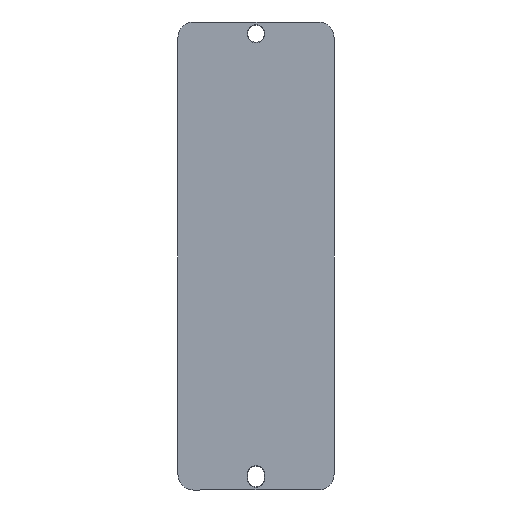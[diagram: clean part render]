
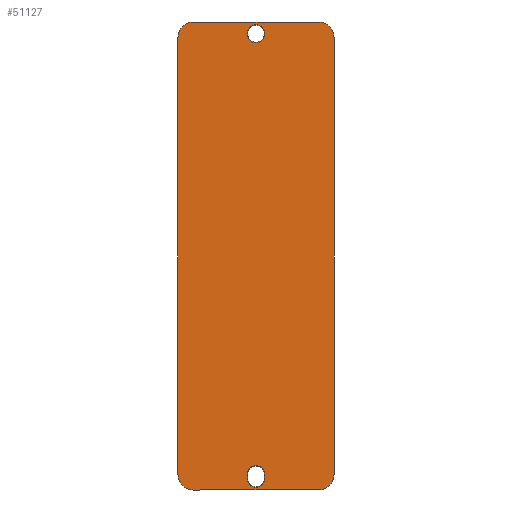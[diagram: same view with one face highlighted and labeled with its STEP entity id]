
A CAD part, top view. The second image highlights one B-rep face of the part: STEP entity #51127.
In plain terms, the highlighted planar face has unit normal (0, 0, 1).
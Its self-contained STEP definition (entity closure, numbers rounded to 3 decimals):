
#101 = CARTESIAN_POINT ( 'NONE',  ( 4.805, -149.629, 18. ) ) ;
#322 = CARTESIAN_POINT ( 'NONE',  ( 4.805, 30.371, 18. ) ) ;
#345 =( BOUNDED_CURVE ( )  B_SPLINE_CURVE ( 3, ( #32397, #38148, #35648, #26539 ),
 .UNSPECIFIED., .F., .F. ) 
 B_SPLINE_CURVE_WITH_KNOTS ( ( 4, 4 ),
 ( 2.356, 3.927 ),
 .UNSPECIFIED. ) 
 CURVE ( )  GEOMETRIC_REPRESENTATION_ITEM ( )  RATIONAL_B_SPLINE_CURVE ( ( 1., 0.805, 0.805, 1. ) ) 
 REPRESENTATION_ITEM ( '' )  );
#839 = CARTESIAN_POINT ( 'NONE',  ( -43.197, -149.629, 18. ) ) ;
#987 = CARTESIAN_POINT ( 'NONE',  ( 4.805, -149.629, 18. ) ) ;
#1209 = CARTESIAN_POINT ( 'NONE',  ( -49.196, 24.372, 18. ) ) ;
#1771 = LINE ( 'NONE', #10914, #5182 ) ;
#2437 = CARTESIAN_POINT ( 'NONE',  ( -46.712, -149.629, 18. ) ) ;
#3280 = VECTOR ( 'NONE', #18192, 1000. ) ;
#3852 = CIRCLE ( 'NONE', #18591, 3.416 ) ;
#4616 = VECTOR ( 'NONE', #12171, 1000. ) ;
#4618 = VERTEX_POINT ( 'NONE', #47286 ) ;
#5176 = EDGE_CURVE ( 'NONE', #4618, #41777, #7862, .T. ) ;
#5182 = VECTOR ( 'NONE', #20129, 1000. ) ;
#6706 = ORIENTED_EDGE ( 'NONE', *, *, #23031, .T. ) ;
#6769 = CARTESIAN_POINT ( 'NONE',  ( 8.319, -149.629, 18. ) ) ;
#7453 = EDGE_LOOP ( 'NONE', ( #42975, #23919 ) ) ;
#7607 = CARTESIAN_POINT ( 'NONE',  ( -49.196, -143.629, 18. ) ) ;
#7862 = LINE ( 'NONE', #41202, #10920 ) ;
#8447 = VECTOR ( 'NONE', #47445, 1000. ) ;
#8513 = DIRECTION ( 'NONE',  ( 1., 0., 0. ) ) ;
#9164 = VERTEX_POINT ( 'NONE', #1209 ) ;
#9555 =( BOUNDED_CURVE ( )  B_SPLINE_CURVE ( 3, ( #17500, #46657, #2437, #839 ),
 .UNSPECIFIED., .F., .F. ) 
 B_SPLINE_CURVE_WITH_KNOTS ( ( 4, 4 ),
 ( 2.356, 3.927 ),
 .UNSPECIFIED. ) 
 CURVE ( )  GEOMETRIC_REPRESENTATION_ITEM ( )  RATIONAL_B_SPLINE_CURVE ( ( 1., 0.805, 0.805, 1. ) ) 
 REPRESENTATION_ITEM ( '' )  );
#10080 = EDGE_CURVE ( 'NONE', #14363, #35214, #16502, .T. ) ;
#10156 = EDGE_CURVE ( 'NONE', #37280, #9164, #45732, .T. ) ;
#10615 = EDGE_CURVE ( 'NONE', #24021, #37280, #36928, .T. ) ;
#10914 = CARTESIAN_POINT ( 'NONE',  ( -22.612, -143.51, 18. ) ) ;
#10920 = VECTOR ( 'NONE', #25402, 1000. ) ;
#11399 = DIRECTION ( 'NONE',  ( 1., 0., 0. ) ) ;
#12171 = DIRECTION ( 'NONE',  ( 0., -1., 0. ) ) ;
#12835 = EDGE_CURVE ( 'NONE', #48202, #39407, #21078, .T. ) ;
#12979 = LINE ( 'NONE', #23908, #4616 ) ;
#13215 = CARTESIAN_POINT ( 'NONE',  ( -15.78, 25.871, 18. ) ) ;
#14065 = CARTESIAN_POINT ( 'NONE',  ( -46.712, 30.371, 18. ) ) ;
#14363 = VERTEX_POINT ( 'NONE', #33861 ) ;
#15042 = ORIENTED_EDGE ( 'NONE', *, *, #46335, .T. ) ;
#15080 = CARTESIAN_POINT ( 'NONE',  ( -22.612, 25.871, 18. ) ) ;
#15302 = CARTESIAN_POINT ( 'NONE',  ( 10.804, 24.372, 18. ) ) ;
#16502 = LINE ( 'NONE', #40673, #3280 ) ;
#17500 = CARTESIAN_POINT ( 'NONE',  ( -49.196, -143.629, 18. ) ) ;
#18192 = DIRECTION ( 'NONE',  ( 1., 0., 0. ) ) ;
#18301 = CARTESIAN_POINT ( 'NONE',  ( -49.196, 27.887, 18. ) ) ;
#18591 = AXIS2_PLACEMENT_3D ( 'NONE', #18759, #28334, #40791 ) ;
#18759 = CARTESIAN_POINT ( 'NONE',  ( -19.196, 25.871, 18. ) ) ;
#19201 = AXIS2_PLACEMENT_3D ( 'NONE', #34360, #29371, #20190 ) ;
#19257 = ORIENTED_EDGE ( 'NONE', *, *, #12835, .T. ) ;
#19288 = CARTESIAN_POINT ( 'NONE',  ( -19.196, 25.871, 18. ) ) ;
#19364 = CARTESIAN_POINT ( 'NONE',  ( 10.804, -143.629, 18. ) ) ;
#20109 = CARTESIAN_POINT ( 'NONE',  ( -43.197, 30.371, 18. ) ) ;
#20129 = DIRECTION ( 'NONE',  ( 0., 1., 0. ) ) ;
#20190 = DIRECTION ( 'NONE',  ( 1., 0., 0. ) ) ;
#20201 = ORIENTED_EDGE ( 'NONE', *, *, #10156, .T. ) ;
#20604 = PLANE ( 'NONE',  #39028 ) ;
#20999 = EDGE_CURVE ( 'NONE', #32929, #48202, #1771, .T. ) ;
#21078 = CIRCLE ( 'NONE', #24255, 3.416 ) ;
#21519 = FACE_BOUND ( 'NONE', #42332, .T. ) ;
#21847 = CARTESIAN_POINT ( 'NONE',  ( 10.804, -147.144, 18. ) ) ;
#23031 = EDGE_CURVE ( 'NONE', #41777, #24021, #345, .T. ) ;
#23908 = CARTESIAN_POINT ( 'NONE',  ( -15.78, -143.51, 18. ) ) ;
#23919 = ORIENTED_EDGE ( 'NONE', *, *, #35509, .T. ) ;
#24021 = VERTEX_POINT ( 'NONE', #322 ) ;
#24255 = AXIS2_PLACEMENT_3D ( 'NONE', #49406, #26941, #8513 ) ;
#24522 = CARTESIAN_POINT ( 'NONE',  ( -22.612, -143.629, 18. ) ) ;
#25093 = EDGE_CURVE ( 'NONE', #9164, #37357, #30855, .T. ) ;
#25402 = DIRECTION ( 'NONE',  ( 0., 1., 0. ) ) ;
#25632 = DIRECTION ( 'NONE',  ( 0., 0., 1. ) ) ;
#25900 = ORIENTED_EDGE ( 'NONE', *, *, #28864, .T. ) ;
#26175 = EDGE_CURVE ( 'NONE', #31074, #32929, #46257, .T. ) ;
#26539 = CARTESIAN_POINT ( 'NONE',  ( 4.805, 30.371, 18. ) ) ;
#26941 = DIRECTION ( 'NONE',  ( 0., 0., -1. ) ) ;
#26971 = ORIENTED_EDGE ( 'NONE', *, *, #20999, .T. ) ;
#27483 = CARTESIAN_POINT ( 'NONE',  ( -49.196, -143.888, 18. ) ) ;
#27629 = DIRECTION ( 'NONE',  ( 1., 0., 0. ) ) ;
#28334 = DIRECTION ( 'NONE',  ( 0., 0., -1. ) ) ;
#28864 = EDGE_CURVE ( 'NONE', #35214, #4618, #31393, .T. ) ;
#29371 = DIRECTION ( 'NONE',  ( 0., 0., -1. ) ) ;
#30003 = CARTESIAN_POINT ( 'NONE',  ( -43.197, 30.371, 18. ) ) ;
#30038 = CARTESIAN_POINT ( 'NONE',  ( -49.196, 24.372, 18. ) ) ;
#30270 = AXIS2_PLACEMENT_3D ( 'NONE', #19288, #45071, #27629 ) ;
#30655 = EDGE_CURVE ( 'NONE', #39407, #31074, #12979, .T. ) ;
#30855 = LINE ( 'NONE', #27483, #8447 ) ;
#31074 = VERTEX_POINT ( 'NONE', #37588 ) ;
#31078 = CARTESIAN_POINT ( 'NONE',  ( -15.78, -143.629, 18. ) ) ;
#31393 =( BOUNDED_CURVE ( )  B_SPLINE_CURVE ( 3, ( #101, #6769, #21847, #19364 ),
 .UNSPECIFIED., .F., .F. ) 
 B_SPLINE_CURVE_WITH_KNOTS ( ( 4, 4 ),
 ( 5.498, 7.068 ),
 .UNSPECIFIED. ) 
 CURVE ( )  GEOMETRIC_REPRESENTATION_ITEM ( )  RATIONAL_B_SPLINE_CURVE ( ( 1., 0.805, 0.805, 1. ) ) 
 REPRESENTATION_ITEM ( '' )  );
#32397 = CARTESIAN_POINT ( 'NONE',  ( 10.804, 24.372, 18. ) ) ;
#32929 = VERTEX_POINT ( 'NONE', #48981 ) ;
#33230 = ORIENTED_EDGE ( 'NONE', *, *, #10080, .T. ) ;
#33506 = ORIENTED_EDGE ( 'NONE', *, *, #5176, .T. ) ;
#33861 = CARTESIAN_POINT ( 'NONE',  ( -43.197, -149.629, 18. ) ) ;
#34254 = ORIENTED_EDGE ( 'NONE', *, *, #25093, .T. ) ;
#34360 = CARTESIAN_POINT ( 'NONE',  ( -19.196, -145.129, 18. ) ) ;
#35214 = VERTEX_POINT ( 'NONE', #987 ) ;
#35509 = EDGE_CURVE ( 'NONE', #41543, #37602, #47400, .T. ) ;
#35648 = CARTESIAN_POINT ( 'NONE',  ( 8.319, 30.371, 18. ) ) ;
#36294 = ORIENTED_EDGE ( 'NONE', *, *, #26175, .T. ) ;
#36548 = ORIENTED_EDGE ( 'NONE', *, *, #30655, .T. ) ;
#36928 = LINE ( 'NONE', #41938, #37122 ) ;
#37122 = VECTOR ( 'NONE', #49480, 1000. ) ;
#37280 = VERTEX_POINT ( 'NONE', #20109 ) ;
#37357 = VERTEX_POINT ( 'NONE', #7607 ) ;
#37588 = CARTESIAN_POINT ( 'NONE',  ( -15.78, -145.129, 18. ) ) ;
#37602 = VERTEX_POINT ( 'NONE', #13215 ) ;
#38148 = CARTESIAN_POINT ( 'NONE',  ( 10.804, 27.887, 18. ) ) ;
#39028 = AXIS2_PLACEMENT_3D ( 'NONE', #48123, #25632, #11399 ) ;
#39407 = VERTEX_POINT ( 'NONE', #31078 ) ;
#40673 = CARTESIAN_POINT ( 'NONE',  ( -43.456, -149.629, 18. ) ) ;
#40791 = DIRECTION ( 'NONE',  ( 1., 0., 0. ) ) ;
#41202 = CARTESIAN_POINT ( 'NONE',  ( 10.804, -143.888, 18. ) ) ;
#41543 = VERTEX_POINT ( 'NONE', #15080 ) ;
#41777 = VERTEX_POINT ( 'NONE', #15302 ) ;
#41938 = CARTESIAN_POINT ( 'NONE',  ( -43.456, 30.371, 18. ) ) ;
#42332 = EDGE_LOOP ( 'NONE', ( #19257, #36548, #36294, #26971 ) ) ;
#42975 = ORIENTED_EDGE ( 'NONE', *, *, #48862, .T. ) ;
#43105 = FACE_BOUND ( 'NONE', #7453, .T. ) ;
#43911 = FACE_OUTER_BOUND ( 'NONE', #44926, .T. ) ;
#44926 = EDGE_LOOP ( 'NONE', ( #34254, #15042, #33230, #25900, #33506, #6706, #47555, #20201 ) ) ;
#45071 = DIRECTION ( 'NONE',  ( 0., 0., -1. ) ) ;
#45732 =( BOUNDED_CURVE ( )  B_SPLINE_CURVE ( 3, ( #30003, #14065, #18301, #30038 ),
 .UNSPECIFIED., .F., .F. ) 
 B_SPLINE_CURVE_WITH_KNOTS ( ( 4, 4 ),
 ( 5.498, 7.068 ),
 .UNSPECIFIED. ) 
 CURVE ( )  GEOMETRIC_REPRESENTATION_ITEM ( )  RATIONAL_B_SPLINE_CURVE ( ( 1., 0.805, 0.805, 1. ) ) 
 REPRESENTATION_ITEM ( '' )  );
#46257 = CIRCLE ( 'NONE', #19201, 3.416 ) ;
#46335 = EDGE_CURVE ( 'NONE', #37357, #14363, #9555, .T. ) ;
#46657 = CARTESIAN_POINT ( 'NONE',  ( -49.196, -147.144, 18. ) ) ;
#47286 = CARTESIAN_POINT ( 'NONE',  ( 10.804, -143.629, 18. ) ) ;
#47400 = CIRCLE ( 'NONE', #30270, 3.416 ) ;
#47445 = DIRECTION ( 'NONE',  ( 0., -1., 0. ) ) ;
#47555 = ORIENTED_EDGE ( 'NONE', *, *, #10615, .T. ) ;
#48123 = CARTESIAN_POINT ( 'NONE',  ( -43.456, -143.888, 18. ) ) ;
#48202 = VERTEX_POINT ( 'NONE', #24522 ) ;
#48862 = EDGE_CURVE ( 'NONE', #37602, #41543, #3852, .T. ) ;
#48981 = CARTESIAN_POINT ( 'NONE',  ( -22.612, -145.129, 18. ) ) ;
#49406 = CARTESIAN_POINT ( 'NONE',  ( -19.196, -143.629, 18. ) ) ;
#49480 = DIRECTION ( 'NONE',  ( -1., 0., 0. ) ) ;
#51127 = ADVANCED_FACE ( 'NONE', ( #43911, #21519, #43105 ), #20604, .T. ) ;
